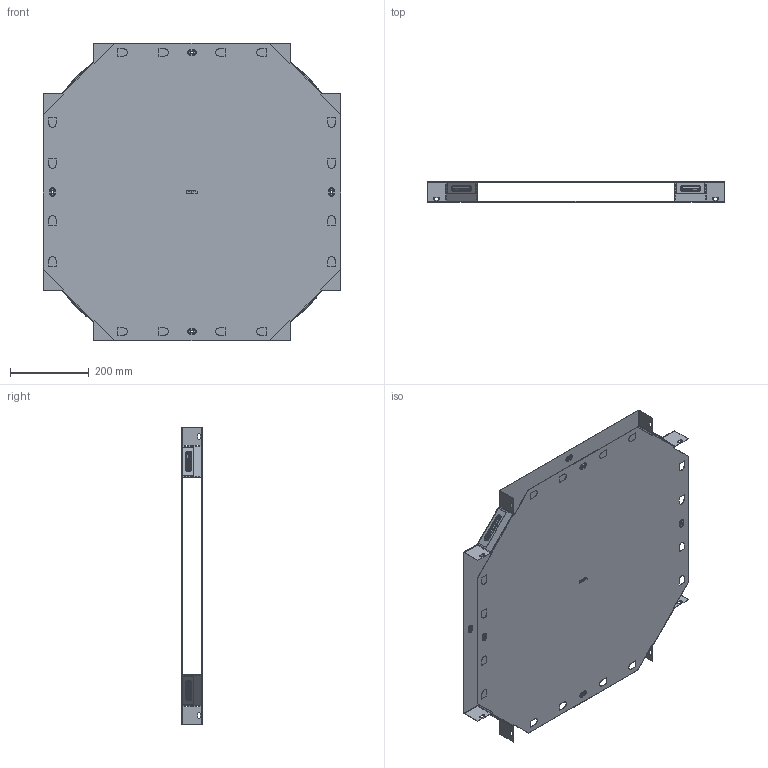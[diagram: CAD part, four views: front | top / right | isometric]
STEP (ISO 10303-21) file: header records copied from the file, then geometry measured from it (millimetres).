
FILE_DESCRIPTION (( 'STEP AP214' ), '1' );
FILE_NAME ('x5050008_捘.STEP', '2019-06-10T07:26:58', ( '砐錪賧瘔蠈錪 Windows' ), ( '' ), 'SwSTEP 2.0', 'SolidWorks 2018', '' );
FILE_SCHEMA (( 'AUTOMOTIVE_DESIGN' ));
Length unit declared in the file: millimetre
Products named in the file (1): x5050008_捘
Bounding box: 755.01 x 53.8 x 755.01 mm (x, y, z)
Volume: 854613 mm3; surface area: 2143924.7 mm2
Topology: 2 solids, 2 shells, 880 faces, 2496 edges, 1616 vertices
Faces by surface type: plane 454, cylinder 280, torus 128, bspline 18
Entity records: 29599 total; most frequent: CARTESIAN_POINT 5951, ORIENTED_EDGE 4992, DIRECTION 4938, EDGE_CURVE 2496, LINE 1708, VECTOR 1708, VERTEX_POINT 1616, AXIS2_PLACEMENT_3D 1615
